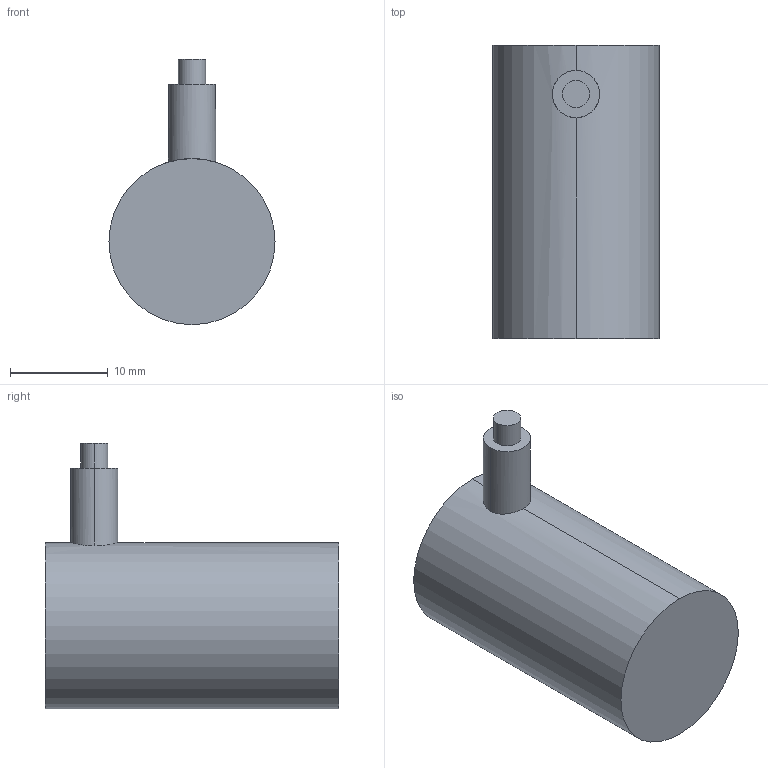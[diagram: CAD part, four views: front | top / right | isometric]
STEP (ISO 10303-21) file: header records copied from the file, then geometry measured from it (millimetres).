
FILE_DESCRIPTION (( 'STEP AP203' ), '1' );
FILE_NAME ('FINAL ASBY SS1080-12K.STEP', '2022-12-06T16:55:18', ( '' ), ( '' ), 'SwSTEP 2.0', 'SolidWorks 2008', '' );
FILE_SCHEMA (( 'CONFIG_CONTROL_DESIGN' ));
Length unit declared in the file: inch
Products named in the file (1): FINAL ASBY SS1080-12K
Bounding box: 16.99 x 30 x 27.15 mm (x, y, z)
Volume: 6959.4 mm3; surface area: 2195.2 mm2
Topology: 1 solids, 1 shells, 10 faces, 21 edges, 14 vertices
Faces by surface type: cylinder 6, plane 4
Entity records: 406 total; most frequent: CARTESIAN_POINT 106, DIRECTION 49, ORIENTED_EDGE 42, AXIS2_PLACEMENT_3D 21, EDGE_CURVE 21, VERTEX_POINT 14, EDGE_LOOP 11, ADVANCED_FACE 10
